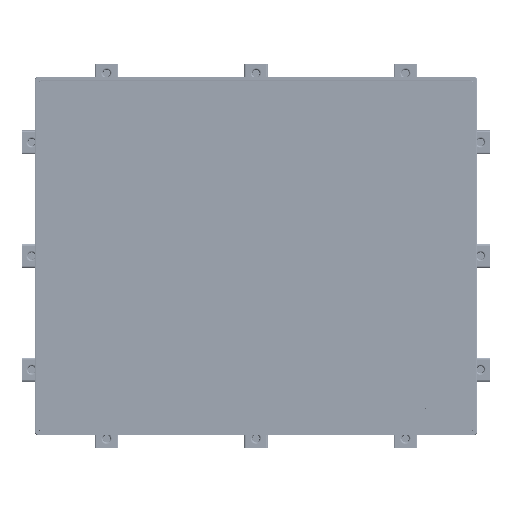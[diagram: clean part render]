
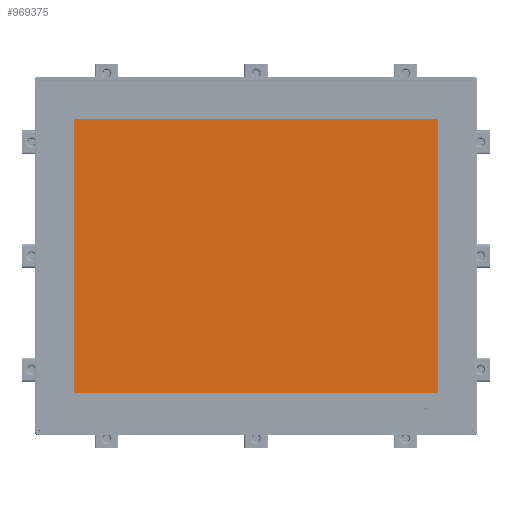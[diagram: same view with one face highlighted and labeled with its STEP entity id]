
A CAD part, top view. The second image highlights one B-rep face of the part: STEP entity #969375.
In plain terms, the highlighted planar face has unit normal (0, 0, 1).
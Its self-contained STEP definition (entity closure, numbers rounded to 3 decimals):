
#968767=DIRECTION('',(0.,1.,0.));
#968768=VECTOR('',#968767,229.03);
#968769=CARTESIAN_POINT('',(-152.6,-114.515,4.5));
#968770=LINE('',#968769,#968768);
#968783=DIRECTION('',(-1.,0.,0.));
#968784=VECTOR('',#968783,305.2);
#968785=CARTESIAN_POINT('',(152.6,-114.515,4.5));
#968786=LINE('',#968785,#968784);
#968787=DIRECTION('',(1.,0.,0.));
#968788=VECTOR('',#968787,305.2);
#968789=CARTESIAN_POINT('',(-152.6,114.515,4.5));
#968790=LINE('',#968789,#968788);
#968835=DIRECTION('',(0.,-1.,0.));
#968836=VECTOR('',#968835,229.03);
#968837=CARTESIAN_POINT('',(152.6,114.515,4.5));
#968838=LINE('',#968837,#968836);
#968859=CARTESIAN_POINT('',(152.6,-114.515,4.5));
#968860=VERTEX_POINT('',#968859);
#968861=CARTESIAN_POINT('',(-152.6,-114.515,4.5));
#968862=VERTEX_POINT('',#968861);
#968869=CARTESIAN_POINT('',(-152.6,114.515,4.5));
#968870=VERTEX_POINT('',#968869);
#968921=CARTESIAN_POINT('',(152.6,114.515,4.5));
#968923=VERTEX_POINT('',#968921);
#969362=CARTESIAN_POINT('',(0.,0.,4.5));
#969363=DIRECTION('',(0.,0.,1.));
#969364=DIRECTION('',(-1.,0.,0.));
#969365=AXIS2_PLACEMENT_3D('',#969362,#969363,#969364);
#969366=PLANE('',#969365);
#969367=ORIENTED_EDGE('',*,*,#969305,.T.);
#969369=ORIENTED_EDGE('',*,*,#969368,.T.);
#969371=ORIENTED_EDGE('',*,*,#969370,.T.);
#969372=ORIENTED_EDGE('',*,*,#969346,.T.);
#969373=EDGE_LOOP('',(#969367,#969369,#969371,#969372));
#969374=FACE_OUTER_BOUND('',#969373,.F.);
#969375=ADVANCED_FACE('',(#969374),#969366,.T.);
#969305=EDGE_CURVE('',#968862,#968870,#968770,.T.);
#969346=EDGE_CURVE('',#968860,#968862,#968786,.T.);
#969368=EDGE_CURVE('',#968870,#968923,#968790,.T.);
#969370=EDGE_CURVE('',#968923,#968860,#968838,.T.);
